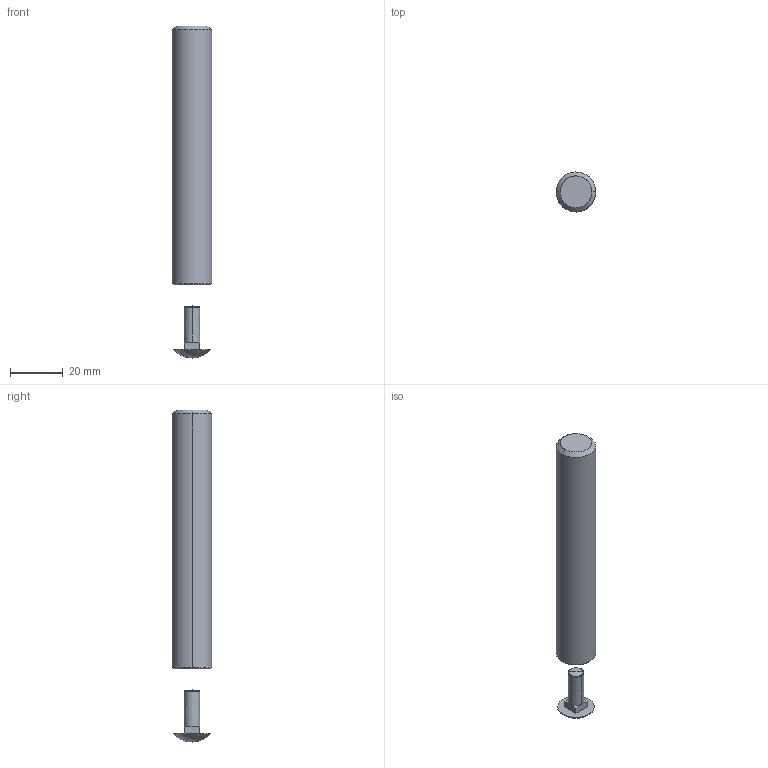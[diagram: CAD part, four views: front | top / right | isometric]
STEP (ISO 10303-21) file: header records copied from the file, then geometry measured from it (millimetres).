
FILE_DESCRIPTION(/* description */ (''),/* implementation_level */ '2;1');
FILE_NAME(/* name */ 'KOM100',/* time_stamp */ '2012-11-29T22:55:59+01:00',/* author */ (''),/* organization */ (''),/* preprocessor_version */ 'ST-DEVELOPER v10',/* originating_system */ '',/* authorisation */ '');
FILE_SCHEMA (('AUTOMOTIVE_DESIGN_CC2'));
Length unit declared in the file: millimetre
Products named in the file (1): 1
Bounding box: 15 x 14.98 x 125.63 mm (x, y, z)
Surface area: 5913.4 mm2 (no closed solid volume)
Topology: 0 solids, 24 shells, 35 faces, 123 edges, 101 vertices
Faces by surface type: bspline 26, plane 9
Entity records: 3620 total; most frequent: CARTESIAN_POINT 2740, ORIENTED_EDGE 137, EDGE_CURVE 115, VERTEX_POINT 95, B_SPLINE_CURVE_WITH_KNOTS 93, EDGE_LOOP 38, ADVANCED_FACE 35, FACE_OUTER_BOUND 35
